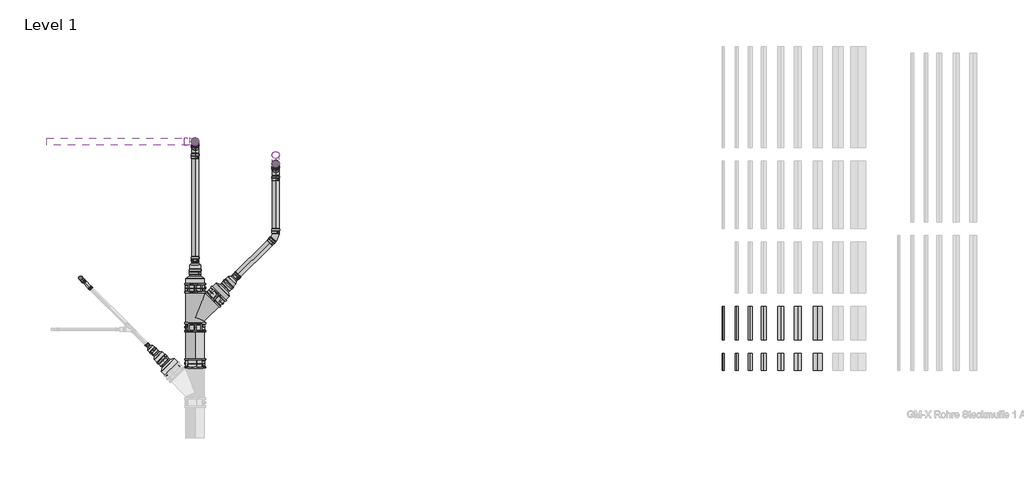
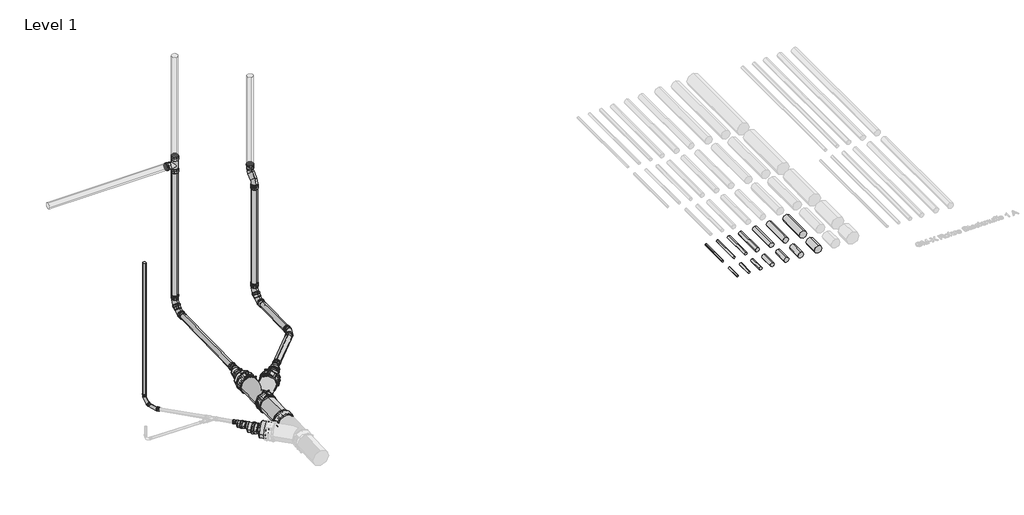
# One storey, part 3 of 7: 52 pipe fittings, 24 pipe segments, 1 valve.
"""IFC4 building model written with IfcOpenShell, lengths in millimetres."""

from ifc_helpers import new_model, si_unit, point, frame, frame_2d, origin, place, context, project, spatial, circle_curve, trimmed, segment, composite_curve, outline, extrude, transform, mapped, element, save
from components import std_512bb775, std_f0aeaa4e, std_727ca654, std_c7778bcf, std_14a86d40, std_dbb25919, std_19c47b64, std_nested_5e4445c4, std_nested_c9cabba8, std_nested_afca93a4, std_nested_2a42391e, std_nested_e5a5243e, std_nested_04e2da1f, std_nested_37ce9ab0, std_nested_de9f702d, std_nested_f38542de, std_nested_596bb4c3, std_nested_6f421a5c, std_nested_473bf3f7, std_nested_352c3d66, std_nested_72f87268, std_nested_dc9893ff, std_nested_30a605e0, std_nested_28663e90, dn100_130mm_dbbf00aa

model = new_model("IFC4")

# Units and contexts
model_context = context("Model", 3, world=origin())
ifc_project = project(units=[si_unit("LENGTHUNIT", "METRE", prefix="MILLI")], contexts=[model_context])

# Site, building, storey
site = spatial("IfcSite", under=ifc_project)
building = spatial("IfcBuilding", under=site)
storey = spatial("IfcBuildingStorey", under=building, Name="Level 1", Elevation=0.0)

# Pipe fittings
placement = place(None, origin())
std_shape = std_512bb775(model_context)
element("IfcPipeFitting", 1, ObjectType="PIF_ST_UN_GM-X multibranch_ACO : std", at=placement, inside=storey, context=model_context, shape_type="MappedRepresentation", body=[
    mapped(std_shape, transform((-7317.0023568, 3391.3677712, 2737.4997144), x_axis=(-2.983006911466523e-06, 1.4343336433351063e-07, 0.9999999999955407), y_axis=(-0.999999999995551, 0.0, -2.9830069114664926e-06), z_axis=(0.0, -0.9999999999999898, 1.434333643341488e-07))),
])
std_2_shape = std_f0aeaa4e(model_context)
element("IfcPipeFitting", 2, ObjectType="PIF_ST_UN_GM-X multireducer_ACO : std", at=placement, inside=storey, context=model_context, shape_type="MappedRepresentation", body=[
    mapped(std_2_shape, transform((-7316.8174194, 1420.9301493, 36.3139522), x_axis=(0.0, 0.9998875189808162, 0.014998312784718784), y_axis=(0.9999807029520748, -9.31752886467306e-05, 0.006211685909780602), z_axis=(0.006212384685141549, 0.014998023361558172, -0.9998682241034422))),
])
std_3_shape = std_727ca654(model_context)
element("IfcPipeFitting", 3, ObjectType="PIF_ST_UN_GM-X double bend_ACO : std", at=placement, inside=storey, context=model_context, shape_type="MappedRepresentation", body=[
    mapped(std_3_shape, transform((-6125.6297256, 3061.3647467, 96.8253188), x_axis=(0.0, 0.0, -1.0), y_axis=(0.0, -1.0, 0.0), z_axis=(-1.0, 0.0, 0.0))),
])
std_4_shape = std_c7778bcf(model_context)
element("IfcPipeFitting", 4, ObjectType="PIF_ST_UN_GM-X double bend_ACO : std", at=placement, inside=storey, context=model_context, shape_type="MappedRepresentation", body=[
    mapped(std_4_shape, transform((-7316.9944724, 3391.367392, 94.3731669), x_axis=(2.983006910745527e-06, -1.434333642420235e-07, -0.9999999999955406), y_axis=(-4.4745531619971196e-08, -0.9999999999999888, 1.434332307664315e-07), z_axis=(-0.9999999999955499, 4.4745103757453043e-08, -2.9830069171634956e-06))),
])
std_5_shape = std_14a86d40(model_context)
element("IfcPipeFitting", 5, ObjectType="PIF_ST_UN_GM-X double bend_ACO : std", at=placement, inside=storey, context=model_context, shape_type="MappedRepresentation", body=[
    mapped(std_5_shape, transform((-9014.1047863, 1368.6642449, 98.722493), x_axis=(0.0, 1.0220318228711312e-05, -0.9999999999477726), y_axis=(0.7071067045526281, -0.7071068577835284, -7.2268571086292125e-06), z_axis=(-0.7071068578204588, -0.7071067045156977, -7.226855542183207e-06))),
])
std_6_shape = std_dbb25919(model_context)
element("IfcPipeFitting", 6, ObjectType="PIF_ST_UN_GM-X multibranch_ACO : std", at=placement, inside=storey, context=model_context, shape_type="MappedRepresentation", body=[
    mapped(std_6_shape, transform((-7316.8174194, 788.0013498, 26.8200202), x_axis=(0.0, 0.9998875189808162, 0.014998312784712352), y_axis=(0.999980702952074, -9.317528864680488e-05, 0.006211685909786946), z_axis=(0.006212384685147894, 0.014998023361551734, -0.9998682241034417))),
])
std_7_shape = std_19c47b64(model_context)
element("IfcPipeFitting", 7, ObjectType="PIF_ST_UN_GM-X pipe bend_ACO : std", at=placement, inside=storey, context=model_context, shape_type="MappedRepresentation", body=[
    mapped(std_7_shape, transform((-6125.6297256, 1978.9386528, 80.5889274), x_axis=(0.7070272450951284, 0.7070272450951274, 0.014998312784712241), y_axis=(-0.7071590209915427, 0.7070272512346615, 0.0062116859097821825), z_axis=(-0.0062123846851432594, -0.01499802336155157, 0.9998682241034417))),
])
std_nested_shape = std_nested_5e4445c4(model_context)
element("IfcPipeFitting", 8, ObjectType="ZZZ_do not use_PIF_ST_UN_GM-X single branch_ACO : std (nested)", at=placement, inside=storey, context=model_context, shape_type="MappedRepresentation", body=[
    mapped(std_nested_shape, transform((-7317.0023568, 3391.3677712, 2737.4997144), x_axis=(-2.983006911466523e-06, 1.4343336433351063e-07, 0.9999999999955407), y_axis=(-0.999999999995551, 0.0, -2.9830069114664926e-06), z_axis=(0.0, -0.9999999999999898, 1.434333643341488e-07))),
])
std_nested_2_shape = std_nested_c9cabba8(model_context)
element("IfcPipeFitting", 9, ObjectType="ZZZ_do not use_PIF_ST_UN_GM-X transition element_ACO : std (nested)", at=placement, inside=storey, context=model_context, shape_type="MappedRepresentation", body=[
    mapped(std_nested_2_shape, transform((-6937.850816, 1166.9679531, 34.8591159), x_axis=(0.7070272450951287, 0.7070272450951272, 0.014998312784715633), y_axis=(0.7071590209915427, -0.7070272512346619, -0.006211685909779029), z_axis=(0.0062123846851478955, 0.014998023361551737, -0.9998682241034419))),
])
element("IfcPipeFitting", 10, ObjectType="ZZZ_do not use_PIF_ST_UN_GM-X transition element_ACO : std (nested)", at=placement, inside=storey, context=model_context, shape_type="MappedRepresentation", body=[
    mapped(std_nested_2_shape, transform((-7316.8174194, 1323.9410599, 34.8591159), x_axis=(0.0, 0.9998875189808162, 0.014998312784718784), y_axis=(0.9999807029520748, -9.31752886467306e-05, 0.006211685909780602), z_axis=(0.006212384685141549, 0.014998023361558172, -0.9998682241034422))),
])
std_nested_3_shape = std_nested_afca93a4(model_context)
element("IfcPipeFitting", 11, ObjectType="ZZZ_do not use_PIF_ST_UN_GM-X transition element_ACO : std (nested)", at=placement, inside=storey, context=model_context, shape_type="MappedRepresentation", body=[
    mapped(std_nested_3_shape, transform((-6798.5664487, 1306.2523204, 37.8137835), x_axis=(0.7070272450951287, 0.7070272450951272, 0.014998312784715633), y_axis=(0.7071590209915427, -0.7070272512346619, -0.006211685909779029), z_axis=(0.0062123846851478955, 0.014998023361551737, -0.9998682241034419))),
])
element("IfcPipeFitting", 12, ObjectType="ZZZ_do not use_PIF_ST_UN_GM-X transition element_ACO : std (nested)", at=placement, inside=storey, context=model_context, shape_type="MappedRepresentation", body=[
    mapped(std_nested_3_shape, transform((-7316.8174194, 1520.9189012, 37.8137835), x_axis=(0.0, 0.9998875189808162, 0.014998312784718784), y_axis=(0.9999807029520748, -9.31752886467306e-05, 0.006211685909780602), z_axis=(0.006212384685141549, 0.014998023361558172, -0.9998682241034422))),
])
std_nested_4_shape = std_nested_2a42391e(model_context)
element("IfcPipeFitting", 13, ObjectType="ZZZ_do not use_PIF_ST_UN_GM-X pipe bend_ACO : std (nested)", at=placement, inside=storey, context=model_context, shape_type="MappedRepresentation", body=[
    mapped(std_nested_4_shape, transform((-6125.6297256, 3061.3647467, 221.7569309), x_axis=(0.0, 0.0, -1.0), y_axis=(0.0, -1.0, 0.0), z_axis=(-1.0, 0.0, 0.0))),
])
std_nested_5_shape = std_nested_e5a5243e(model_context)
element("IfcPipeFitting", 14, ObjectType="ZZZ_do not use_PIF_ST_UN_GM-X pipe bend_ACO : std (nested)", at=placement, inside=storey, context=model_context, shape_type="MappedRepresentation", body=[
    mapped(std_nested_5_shape, transform((-6125.6297256, 2936.447187, 94.9515554), x_axis=(0.0, -0.7017840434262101, -0.7123897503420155), y_axis=(0.0, -0.7123897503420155, 0.7017840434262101), z_axis=(-1.0, 0.0, 0.0))),
])
std_nested_6_shape = std_nested_04e2da1f(model_context)
element("IfcPipeFitting", 15, ObjectType="ZZZ_do not use_PIF_ST_UN_GM-X pipe bend_ACO : std (nested)", at=placement, inside=storey, context=model_context, shape_type="MappedRepresentation", body=[
    mapped(std_nested_6_shape, transform((-7316.994845, 3391.36741, 219.3047703), x_axis=(2.983006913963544e-06, -1.4343336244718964e-07, -0.9999999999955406), y_axis=(-4.474553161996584e-08, -0.9999999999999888, 1.434332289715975e-07), z_axis=(-0.9999999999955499, 4.474510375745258e-08, -2.9830069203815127e-06))),
])
std_nested_7_shape = std_nested_37ce9ab0(model_context)
element("IfcPipeFitting", 16, ObjectType="ZZZ_do not use_PIF_ST_UN_GM-X pipe bend_ACO : std (nested)", at=placement, inside=storey, context=model_context, shape_type="MappedRepresentation", body=[
    mapped(std_nested_7_shape, transform((-7316.9944724, 3266.4498411, 92.4994037), x_axis=(2.093662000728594e-06, -0.7017840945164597, -0.7123897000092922), y_axis=(-2.125302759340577e-06, -0.7123897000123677, 0.7017840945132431), z_axis=(-0.9999999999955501, 4.4745103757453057e-08, -2.9830069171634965e-06))),
])
std_nested_8_shape = std_nested_de9f702d(model_context)
element("IfcPipeFitting", 17, ObjectType="ZZZ_do not use_PIF_ST_UN_GM-X pipe bend_ACO : std (nested)", at=placement, inside=storey, context=model_context, shape_type="MappedRepresentation", body=[
    mapped(std_nested_8_shape, transform((-9014.1047863, 1368.6629537, 225.0582808), x_axis=(0.0, 1.0220318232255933e-05, -0.9999999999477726), y_axis=(0.7071067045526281, -0.7071068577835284, -7.2268571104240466e-06), z_axis=(-0.7071068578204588, -0.7071067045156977, -7.2268555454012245e-06))),
])
std_nested_9_shape = std_nested_f38542de(model_context)
element("IfcPipeFitting", 18, ObjectType="ZZZ_do not use_PIF_ST_UN_GM-X pipe bend_ACO : std (nested)", at=placement, inside=storey, context=model_context, shape_type="MappedRepresentation", body=[
    mapped(std_nested_9_shape, transform((-8924.7819422, 1279.3414008, 96.8276693), x_axis=(0.4962380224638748, -0.4962308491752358, -0.7123922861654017), y_axis=(0.5037337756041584, -0.5037410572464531, 0.701781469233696), z_axis=(-0.7071068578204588, -0.7071067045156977, -7.226855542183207e-06))),
])
std_nested_10_shape = std_nested_596bb4c3(model_context)
element("IfcPipeFitting", 19, ObjectType="ZZZ_do not use_PIF_ST_UN_GM-X rapid clamp_ACO : std (nested)", at=placement, inside=storey, context=model_context, shape_type="MappedRepresentation", body=[
    mapped(std_nested_10_shape, transform((-7316.8174194, 640.017997, 24.60027), x_axis=(0.0, -0.9998875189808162, -0.014998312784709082), y_axis=(-0.006212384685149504, -0.014998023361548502, 0.9998682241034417), z_axis=(-0.999980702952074, 9.317528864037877e-05, -0.006211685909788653))),
])
element("IfcPipeFitting", 20, ObjectType="ZZZ_do not use_PIF_ST_UN_GM-X rapid clamp_ACO : std (nested)", at=placement, inside=storey, context=model_context, shape_type="MappedRepresentation", body=[
    mapped(std_nested_10_shape, transform((-7316.8174194, 1220.9526455, 33.3142897), x_axis=(0.0, 0.9998875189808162, 0.014998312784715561), y_axis=(-0.006212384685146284, -0.014998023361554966, 0.9998682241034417), z_axis=(0.999980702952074, -9.317528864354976e-05, 0.006211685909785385))),
])
element("IfcPipeFitting", 21, ObjectType="ZZZ_do not use_PIF_ST_UN_GM-X rapid clamp_ACO : std (nested)", at=placement, inside=storey, context=model_context, shape_type="MappedRepresentation", body=[
    mapped(std_nested_10_shape, transform((-7010.6746223, 1094.1441469, 33.3142897), x_axis=(0.7070272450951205, 0.7070272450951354, 0.014998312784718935), y_axis=(-0.00621238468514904, -0.014998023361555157, 0.9998682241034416), z_axis=(0.7071590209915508, -0.7070272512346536, -0.006211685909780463))),
])
element("IfcPipeFitting", 22, ObjectType="ZZZ_do not use_PIF_ST_UN_GM-X rapid clamp_ACO : std (nested)", at=placement, inside=storey, context=model_context, shape_type="MappedRepresentation", body=[
    mapped(std_nested_10_shape, transform((-7316.8174194, 104.7894226, 16.5718413), x_axis=(0.0, 0.9998875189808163, 0.014998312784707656), y_axis=(-0.006212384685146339, 0.014998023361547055, -0.9998682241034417), z_axis=(-0.9999807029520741, -9.31752886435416e-05, 0.006211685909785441))),
])
std_nested_11_shape = std_nested_6f421a5c(model_context)
element("IfcPipeFitting", 23, ObjectType="ZZZ_do not use_PIF_ST_UN_GM-X universal claw_ACO : std (nested)", at=placement, inside=storey, context=model_context, shape_type="MappedRepresentation", body=[
    mapped(std_nested_11_shape, transform((-7316.8174194, 640.017997, 24.60027), x_axis=(0.0, -0.9998875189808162, -0.014998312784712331), y_axis=(0.999980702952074, -9.317528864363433e-05, 0.006211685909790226), z_axis=(-0.006212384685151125, -0.014998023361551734, 0.9998682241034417))),
])
element("IfcPipeFitting", 24, ObjectType="ZZZ_do not use_PIF_ST_UN_GM-X universal claw_ACO : std (nested)", at=placement, inside=storey, context=model_context, shape_type="MappedRepresentation", body=[
    mapped(std_nested_11_shape, transform((-7316.8174194, 1220.9526455, 33.3142897), x_axis=(0.0, 0.9998875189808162, 0.014998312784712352), y_axis=(-0.999980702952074, 9.31752886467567e-05, -0.006211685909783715), z_axis=(-0.006212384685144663, -0.014998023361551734, 0.9998682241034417))),
])
element("IfcPipeFitting", 25, ObjectType="ZZZ_do not use_PIF_ST_UN_GM-X universal claw_ACO : std (nested)", at=placement, inside=storey, context=model_context, shape_type="MappedRepresentation", body=[
    mapped(std_nested_11_shape, transform((-7010.6746223, 1094.1441469, 33.3142897), x_axis=(0.7070272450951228, 0.707027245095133, 0.014998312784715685), y_axis=(-0.7071590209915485, 0.7070272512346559, 0.006211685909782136), z_axis=(-0.006212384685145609, -0.014998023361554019, 0.9998682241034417))),
])
element("IfcPipeFitting", 26, ObjectType="ZZZ_do not use_PIF_ST_UN_GM-X universal claw_ACO : std (nested)", at=placement, inside=storey, context=model_context, shape_type="MappedRepresentation", body=[
    mapped(std_nested_11_shape, transform((-7316.8174194, 104.7894226, 16.5718413), x_axis=(0.0, 0.9998875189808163, 0.014998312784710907), y_axis=(0.9999807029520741, 9.317528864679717e-05, -0.006211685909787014), z_axis=(-0.00621238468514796, 0.014998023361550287, -0.9998682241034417))),
])
std_nested_12_shape = std_nested_473bf3f7(model_context)
element("IfcPipeFitting", 27, ObjectType="ZZZ_do not use_PIF_ST_UN_GM-X seal non transitional_ACO : std (nested)", at=placement, inside=storey, context=model_context, shape_type="MappedRepresentation", body=[
    mapped(std_nested_12_shape, transform((-6125.6297256, 3191.3647467, 2446.5163684), x_axis=(0.0, 0.0, 1.0), y_axis=(0.0, 1.0, 0.0), z_axis=(-1.0, 0.0, 0.0))),
])
element("IfcPipeFitting", 28, ObjectType="ZZZ_do not use_PIF_ST_UN_GM-X seal non transitional_ACO : std (nested)", at=placement, inside=storey, context=model_context, shape_type="MappedRepresentation", body=[
    mapped(std_nested_12_shape, transform((-6125.6297256, 3061.3647467, 345.7569309), x_axis=(0.0, 0.0, 1.0), y_axis=(0.0, 1.0, 0.0), z_axis=(-1.0, 0.0, 0.0))),
])
element("IfcPipeFitting", 29, ObjectType="ZZZ_do not use_PIF_ST_UN_GM-X seal non transitional_ACO : std (nested)", at=placement, inside=storey, context=model_context, shape_type="MappedRepresentation", body=[
    mapped(std_nested_12_shape, transform((-6125.6297256, 3023.4684084, 183.2878844), x_axis=(0.0, 0.7017840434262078, 0.7123897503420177), y_axis=(0.0, 0.7123897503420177, -0.7017840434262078), z_axis=(-1.0, 0.0, 0.0))),
])
element("IfcPipeFitting", 30, ObjectType="ZZZ_do not use_PIF_ST_UN_GM-X seal non transitional_ACO : std (nested)", at=placement, inside=storey, context=model_context, shape_type="MappedRepresentation", body=[
    mapped(std_nested_12_shape, transform((-7316.9952149, 3391.3674277, 343.3047703), x_axis=(-2.983006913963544e-06, 1.4343335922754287e-07, 0.9999999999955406), y_axis=(4.474553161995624e-08, 0.9999999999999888, -1.4343322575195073e-07), z_axis=(-0.9999999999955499, 4.474510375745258e-08, -2.9830069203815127e-06))),
])
element("IfcPipeFitting", 31, ObjectType="ZZZ_do not use_PIF_ST_UN_GM-X seal non transitional_ACO : std (nested)", at=placement, inside=storey, context=model_context, shape_type="MappedRepresentation", body=[
    mapped(std_nested_12_shape, transform((-7316.994732, 3353.4710689, 180.8357265), x_axis=(-2.093662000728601e-06, 0.7017840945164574, 0.7123897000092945), y_axis=(2.12530275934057e-06, 0.7123897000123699, -0.7017840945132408), z_axis=(-0.9999999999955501, 4.4745103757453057e-08, -2.9830069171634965e-06))),
])
element("IfcPipeFitting", 32, ObjectType="ZZZ_do not use_PIF_ST_UN_GM-X seal non transitional_ACO : std (nested)", at=placement, inside=storey, context=model_context, shape_type="MappedRepresentation", body=[
    mapped(std_nested_12_shape, transform((-6680.6699518, 1423.8984267, 68.8147461), x_axis=(0.7070272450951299, 0.7070272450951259, 0.014998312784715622), y_axis=(0.7071590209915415, -0.7070272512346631, -0.00621168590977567), z_axis=(0.0062123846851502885, 0.014998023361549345, -0.9998682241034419))),
])
element("IfcPipeFitting", 33, ObjectType="ZZZ_do not use_PIF_ST_UN_GM-X seal non transitional_ACO : std (nested)", at=placement, inside=storey, context=model_context, shape_type="MappedRepresentation", body=[
    mapped(std_nested_12_shape, transform((-7952.964887, 307.7352038, 52.0722978), x_axis=(-0.7070272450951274, 0.7070272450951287, 0.014998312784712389), y_axis=(-0.7071590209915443, -0.7070272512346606, -0.006211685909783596), z_axis=(0.0062123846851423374, -0.014998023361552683, 0.9998682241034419))),
])
element("IfcPipeFitting", 34, ObjectType="ZZZ_do not use_PIF_ST_UN_GM-X seal non transitional_ACO : std (nested)", at=placement, inside=storey, context=model_context, shape_type="MappedRepresentation", body=[
    mapped(std_nested_12_shape, transform((-7477.0023568, 3391.3677712, 2737.4997144), x_axis=(-1.0000000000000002, 0.0, 0.0), y_axis=(0.0, -1.4343336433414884e-07, -0.9999999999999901), z_axis=(0.0, -0.99999999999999, 1.4343336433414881e-07))),
])
element("IfcPipeFitting", 35, ObjectType="ZZZ_do not use_PIF_ST_UN_GM-X seal non transitional_ACO : std (nested)", at=placement, inside=storey, context=model_context, shape_type="MappedRepresentation", body=[
    mapped(std_nested_12_shape, transform((-7317.0028341, 3391.3677941, 2897.4997144), x_axis=(-2.983006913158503e-06, 1.4343336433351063e-07, 0.9999999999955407), y_axis=(-0.999999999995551, 0.0, -2.9830069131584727e-06), z_axis=(0.0, -0.9999999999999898, 1.434333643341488e-07))),
])
element("IfcPipeFitting", 36, ObjectType="ZZZ_do not use_PIF_ST_UN_GM-X seal non transitional_ACO : std (nested)", at=placement, inside=storey, context=model_context, shape_type="MappedRepresentation", body=[
    mapped(std_nested_12_shape, transform((-7316.9944724, 1687.4726732, 68.8147461), x_axis=(0.0, 0.9998875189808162, 0.014998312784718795), y_axis=(0.9999807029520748, -9.317528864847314e-05, 0.006211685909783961), z_axis=(0.006212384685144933, 0.014998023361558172, -0.9998682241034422))),
])
element("IfcPipeFitting", 37, ObjectType="ZZZ_do not use_PIF_ST_UN_GM-X seal non transitional_ACO : std (nested)", at=placement, inside=storey, context=model_context, shape_type="MappedRepresentation", body=[
    mapped(std_nested_12_shape, transform((-6125.6297256, 2102.9247052, 82.4487182), x_axis=(0.0, 0.9998875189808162, 0.014998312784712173), y_axis=(-0.999980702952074, 9.317528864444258e-05, -0.006211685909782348), z_axis=(-0.0062123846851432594, -0.01499802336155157, 0.9998682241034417))),
])
element("IfcPipeFitting", 38, ObjectType="ZZZ_do not use_PIF_ST_UN_GM-X seal non transitional_ACO : std (nested)", at=placement, inside=storey, context=model_context, shape_type="MappedRepresentation", body=[
    mapped(std_nested_12_shape, transform((-6163.8091969, 1940.7591816, 79.7790185), x_axis=(0.7070272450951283, 0.7070272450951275, 0.014998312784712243), y_axis=(-0.7071590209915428, 0.7070272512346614, 0.006211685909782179), z_axis=(-0.0062123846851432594, -0.01499802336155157, 0.9998682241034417))),
])
element("IfcPipeFitting", 39, ObjectType="ZZZ_do not use_PIF_ST_UN_GM-X seal non transitional_ACO : std (nested)", at=placement, inside=storey, context=model_context, shape_type="MappedRepresentation", body=[
    mapped(std_nested_12_shape, transform((-6125.6297256, 3061.3647467, 2146.5163684), x_axis=(0.0, 0.0, 1.0), y_axis=(0.0, 1.0, 0.0), z_axis=(-1.0, 0.0, 0.0))),
])
element("IfcPipeFitting", 40, ObjectType="ZZZ_do not use_PIF_ST_UN_GM-X seal non transitional_ACO : std (nested)", at=placement, inside=storey, context=model_context, shape_type="MappedRepresentation", body=[
    mapped(std_nested_12_shape, transform((-6125.6297256, 2882.453261, 94.1416465), x_axis=(0.0, 0.9998875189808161, 0.01499831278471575), y_axis=(0.0, 0.01499831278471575, -0.9998875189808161), z_axis=(-1.0, 0.0, 0.0))),
])
element("IfcPipeFitting", 41, ObjectType="ZZZ_do not use_PIF_ST_UN_GM-X seal non transitional_ACO : std (nested)", at=placement, inside=storey, context=model_context, shape_type="MappedRepresentation", body=[
    mapped(std_nested_12_shape, transform((-7316.9944724, 3212.4559151, 91.6894948), x_axis=(0.0, 0.9998875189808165, 0.014998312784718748), y_axis=(2.98334248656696e-06, 0.014998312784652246, -0.9998875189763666), z_axis=(-0.9999999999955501, 4.4745103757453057e-08, -2.9830069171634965e-06))),
])
element("IfcPipeFitting", 42, ObjectType="ZZZ_do not use_PIF_ST_UN_GM-X seal non transitional_ACO : std (nested)", at=placement, inside=storey, context=model_context, shape_type="MappedRepresentation", body=[
    mapped(std_nested_12_shape, transform((-7317.002148, 3391.3677611, 2667.4997144), x_axis=(-2.983006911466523e-06, 1.4343336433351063e-07, 0.9999999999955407), y_axis=(0.999999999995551, 0.0, 2.9830069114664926e-06), z_axis=(0.0, 0.9999999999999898, -1.434333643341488e-07))),
])
std_nested_13_shape = std_nested_352c3d66(model_context)
element("IfcPipeFitting", 43, ObjectType="ZZZ_do not use_PIF_ST_UN_GM-X seal non transitional_ACO : std (nested)", at=placement, inside=storey, context=model_context, shape_type="MappedRepresentation", body=[
    mapped(std_nested_13_shape, transform((-9014.1047863, 1368.6617885, 339.0582808), x_axis=(0.0, -1.0220318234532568e-05, 0.9999999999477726), y_axis=(-0.7071067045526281, 0.7071068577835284, 7.226857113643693e-06), z_axis=(-0.7071068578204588, -0.7071067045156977, -7.2268555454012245e-06))),
])
element("IfcPipeFitting", 44, ObjectType="ZZZ_do not use_PIF_ST_UN_GM-X seal non transitional_ACO : std (nested)", at=placement, inside=storey, context=model_context, shape_type="MappedRepresentation", body=[
    mapped(std_nested_13_shape, transform((-8981.3530768, 1335.9117176, 178.0403899), x_axis=(-0.49623802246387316, 0.4962308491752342, 0.712392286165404), y_axis=(-0.50373377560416, 0.5037410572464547, -0.7017814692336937), z_axis=(-0.7071068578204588, -0.7071067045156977, -7.226855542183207e-06))),
])
element("IfcPipeFitting", 45, ObjectType="ZZZ_do not use_PIF_ST_UN_GM-X seal non transitional_ACO : std (nested)", at=placement, inside=storey, context=model_context, shape_type="MappedRepresentation", body=[
    mapped(std_nested_13_shape, transform((-8878.1181441, 1232.6776026, 95.8377807), x_axis=(-0.7070272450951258, 0.70702724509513, 0.014998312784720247), y_axis=(-0.010600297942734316, 0.010610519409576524, -0.9998875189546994), z_axis=(-0.7071068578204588, -0.7071067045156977, -7.226855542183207e-06))),
])
std_nested_14_shape = std_nested_72f87268(model_context)
element("IfcPipeFitting", 46, ObjectType="ZZZ_do not use_PIF_ST_UN_GM-X seal non transitional_ACO : std (nested)", at=placement, inside=storey, context=model_context, shape_type="MappedRepresentation", body=[
    mapped(std_nested_14_shape, transform((-6810.5859119, 1294.2328573, 37.5588122), x_axis=(0.7070272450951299, 0.7070272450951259, 0.014998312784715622), y_axis=(0.7071590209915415, -0.7070272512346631, -0.006211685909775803), z_axis=(0.006212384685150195, 0.014998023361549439, -0.9998682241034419))),
])
element("IfcPipeFitting", 47, ObjectType="ZZZ_do not use_PIF_ST_UN_GM-X seal non transitional_ACO : std (nested)", at=placement, inside=storey, context=model_context, shape_type="MappedRepresentation", body=[
    mapped(std_nested_14_shape, transform((-7823.0489269, 178.0696344, 20.8163639), x_axis=(-0.7070272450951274, 0.7070272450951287, 0.014998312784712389), y_axis=(-0.7071590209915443, -0.7070272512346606, -0.006211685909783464), z_axis=(0.006212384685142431, -0.01499802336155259, 0.9998682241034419))),
])
element("IfcPipeFitting", 48, ObjectType="ZZZ_do not use_PIF_ST_UN_GM-X seal non transitional_ACO : std (nested)", at=placement, inside=storey, context=model_context, shape_type="MappedRepresentation", body=[
    mapped(std_nested_14_shape, transform((-7316.8174194, 1503.9208134, 37.5588122), x_axis=(0.0, 0.9998875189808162, 0.014998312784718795), y_axis=(0.9999807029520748, -9.317528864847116e-05, 0.006211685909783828), z_axis=(0.006212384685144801, 0.014998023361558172, -0.9998682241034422))),
])
std_nested_15_shape = std_nested_dc9893ff(model_context)
element("IfcPipeFitting", 49, ObjectType="ZZZ_do not use_PIF_ST_UN_GM-X single branch socket free_ACO : std (nested)", at=placement, inside=storey, context=model_context, shape_type="MappedRepresentation", body=[
    mapped(std_nested_15_shape, transform((-7316.8174194, 788.0013498, 26.8200202), x_axis=(0.0, 0.9998875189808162, 0.014998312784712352), y_axis=(0.999980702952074, -9.317528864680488e-05, 0.006211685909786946), z_axis=(0.006212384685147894, 0.014998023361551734, -0.9998682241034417))),
])
element("IfcPipeFitting", 50, ObjectType="ZZZ_do not use_PIF_ST_UN_GM-X transition element_ACO : std (nested)", at=placement, inside=storey, context=model_context, shape_type="MappedRepresentation", body=[
    mapped(std_nested_2_shape, transform((-7695.7840228, 50.8047302, 18.1166676), x_axis=(-0.7070272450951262, 0.7070272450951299, 0.014998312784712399), y_axis=(-0.7071590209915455, -0.7070272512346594, -0.006211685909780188), z_axis=(0.0062123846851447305, -0.01499802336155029, 0.9998682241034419))),
])
std_nested_16_shape = std_nested_30a605e0(model_context)
element("IfcPipeFitting", 51, ObjectType="ZZZ_do not use_PIF_ST_UN_GM-X transition element_ACO : std (nested)", at=placement, inside=storey, context=model_context, shape_type="MappedRepresentation", body=[
    mapped(std_nested_16_shape, transform((-7835.0683901, 190.0890975, 21.0713352), x_axis=(-0.7070272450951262, 0.7070272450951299, 0.014998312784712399), y_axis=(-0.7071590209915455, -0.7070272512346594, -0.006211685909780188), z_axis=(0.0062123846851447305, -0.01499802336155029, 0.9998682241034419))),
])
std_nested_17_shape = std_nested_28663e90(model_context)
element("IfcPipeFitting", 52, ObjectType="ZZZ_do not use_PIF_ST_UN_GM-X transition element_ACO : std (nested)", at=placement, inside=storey, context=model_context, shape_type="MappedRepresentation", body=[
    mapped(std_nested_17_shape, transform((-7958.9746186, 313.7449354, 52.1997835), x_axis=(-0.7070272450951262, 0.7070272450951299, 0.014998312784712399), y_axis=(-0.7071590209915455, -0.7070272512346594, -0.006211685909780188), z_axis=(0.0062123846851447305, -0.01499802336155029, 0.9998682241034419))),
])

# Pipe segments
element("IfcPipeSegment", 53, ObjectType="GM-X pipe complex", at=placement, inside=storey, context=model_context, shape_type="SweptSolid", body=[
    extrude(outline(composite_curve([segment(trimmed(circle_curve(frame_2d((-6125.6297256, 3191.3647467)), 51.5), [point((-6177.1297256, 3191.3647467))], [point((-6125.6297256, 3242.8647467))], False, "CARTESIAN"), True, "CONTINUOUS"), segment(trimmed(circle_curve(frame_2d((-6125.6297256, 3191.3647467)), 51.5), [point((-6125.6297256, 3242.8647467))], [point((-6074.1297256, 3191.3647467))], False, "CARTESIAN"), True, "CONTINUOUS"), segment(trimmed(circle_curve(frame_2d((-6125.6297256, 3191.3647467)), 51.5), [point((-6074.1297256, 3191.3647467))], [point((-6125.6297256, 3139.8647467))], False, "CARTESIAN"), True, "CONTINUOUS"), segment(trimmed(circle_curve(frame_2d((-6125.6297256, 3191.3647467)), 51.5), [point((-6125.6297256, 3139.8647467))], [point((-6177.1297256, 3191.3647467))], False, "CARTESIAN"), True, "CONTINUOUS")], self_intersect=False)), frame((0.0, 0.0, 2376.5163684), z_axis=(0.0, 0.0, 1.0), x_axis=(1.0, 0.0, 0.0)), (0.0, 0.0, 1.0), 1682.2589504),
])
element("IfcPipeSegment", 54, ObjectType="GM-X pipe complex", at=placement, inside=storey, context=model_context, shape_type="SweptSolid", body=[
    extrude(outline(composite_curve([segment(trimmed(circle_curve(frame_2d((0.0, -51.5000001)), 51.5), [point((-51.5, -51.5000001))], [point((0.0, 0.0))], False, "CARTESIAN"), True, "CONTINUOUS"), segment(trimmed(circle_curve(frame_2d((0.0, -51.5000001)), 51.5), [point((0.0, 0.0))], [point((51.5, -51.5000001))], False, "CARTESIAN"), True, "CONTINUOUS"), segment(trimmed(circle_curve(frame_2d((0.0, -51.5000001)), 51.5), [point((51.5, -51.5000001))], [point((0.0, -103.0))], False, "CARTESIAN"), True, "CONTINUOUS"), segment(trimmed(circle_curve(frame_2d((0.0, -51.5000001)), 51.5), [point((0.0, -103.0))], [point((-51.5, -51.5000001))], False, "CARTESIAN"), True, "CONTINUOUS")], self_intersect=False)), frame((-6125.6297256, 2033.704992, 29.904629), z_axis=(0.0, 0.9998875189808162, 0.014998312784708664), x_axis=(1.0, 0.0, 0.0)), (0.0, 0.0, 1.0), 779.6162478),
])
element("IfcPipeSegment", 55, ObjectType="GM-X pipe complex", at=placement, inside=storey, context=model_context, shape_type="SweptSolid", body=[
    extrude(outline(composite_curve([segment(trimmed(circle_curve(frame_2d((0.0, -51.5)), 51.5), [point((-51.4942086, -50.7276737))], [point((0.7723262, -0.0057915))], False, "CARTESIAN"), True, "CONTINUOUS"), segment(trimmed(circle_curve(frame_2d((0.0, -51.5)), 51.5), [point((0.7723262, -0.0057915))], [point((51.4942085, -52.2723262))], False, "CARTESIAN"), True, "CONTINUOUS"), segment(trimmed(circle_curve(frame_2d((0.0, -51.5)), 51.5), [point((51.4942085, -52.2723262))], [point((-0.7723263, -102.9942086))], False, "CARTESIAN"), True, "CONTINUOUS"), segment(trimmed(circle_curve(frame_2d((0.0, -51.5)), 51.5), [point((-0.7723263, -102.9942086))], [point((-51.4942086, -50.7276737))], False, "CARTESIAN"), True, "CONTINUOUS")], self_intersect=False)), frame((-6730.1618589, 1375.4987538, 16.2764478), z_axis=(0.707027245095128, 0.7070272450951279, 0.01499831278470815), x_axis=(0.7071863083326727, -0.7068682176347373, -0.014994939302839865)), (0.0, 0.0, 1.0), 731.0337169),
])
element("IfcPipeSegment", 56, ObjectType="GM-X pipe complex", at=placement, inside=storey, context=model_context, shape_type="SweptSolid", body=[
    extrude(outline(composite_curve([segment(trimmed(circle_curve(frame_2d((0.0, -51.5)), 51.5), [point((-51.5, -51.5))], [point((0.0, 0.0))], False, "CARTESIAN"), True, "CONTINUOUS"), segment(trimmed(circle_curve(frame_2d((0.0, -51.5)), 51.5), [point((0.0, 0.0))], [point((51.5, -51.5))], False, "CARTESIAN"), True, "CONTINUOUS"), segment(trimmed(circle_curve(frame_2d((0.0, -51.5)), 51.5), [point((51.5, -51.5))], [point((0.0, -103.0))], False, "CARTESIAN"), True, "CONTINUOUS"), segment(trimmed(circle_curve(frame_2d((0.0, -51.5)), 51.5), [point((0.0, -103.0))], [point((-51.5, -51.5))], False, "CARTESIAN"), True, "CONTINUOUS")], self_intersect=False)), frame((-7316.9944724, 1618.25296, 16.270657), z_axis=(0.0, 0.999887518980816, 0.014998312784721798), x_axis=(1.0, 0.0, 0.0)), (0.0, 0.0, 1.0), 1525.1547929),
])
element("IfcPipeSegment", 57, ObjectType="GM-X pipe complex", at=placement, inside=storey, context=model_context, shape_type="SweptSolid", body=[
    extrude(outline(composite_curve([segment(trimmed(circle_curve(frame_2d((0.0, -26.5)), 26.5), [point((-26.5, -26.5))], [point((0.0, 0.0))], False, "CARTESIAN"), True, "CONTINUOUS"), segment(trimmed(circle_curve(frame_2d((0.0, -26.5)), 26.5), [point((0.0, 0.0))], [point((26.5, -26.5))], False, "CARTESIAN"), True, "CONTINUOUS"), segment(trimmed(circle_curve(frame_2d((0.0, -26.5)), 26.5), [point((26.5, -26.5))], [point((0.0, -53.0))], False, "CARTESIAN"), True, "CONTINUOUS"), segment(trimmed(circle_curve(frame_2d((0.0, -26.5)), 26.5), [point((0.0, -53.0))], [point((-26.5, -26.5))], False, "CARTESIAN"), True, "CONTINUOUS")], self_intersect=False)), frame((-9014.1047862, 1342.1621769, 301.0582958), z_axis=(0.0, 5.648917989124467e-07, 0.9999999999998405), x_axis=(-1.0, 0.0, 0.0)), (0.0, 0.0, 1.0), 2442.1417168),
])
element("IfcPipeSegment", 58, ObjectType="GM-X pipe complex", at=placement, inside=storey, context=model_context, shape_type="SweptSolid", body=[
    extrude(outline(composite_curve([segment(trimmed(circle_curve(frame_2d((0.0, -136.5000001)), 136.5), [point((-136.5, -136.5000001))], [point((0.0, 0.0))], False, "CARTESIAN"), True, "CONTINUOUS"), segment(trimmed(circle_curve(frame_2d((0.0, -136.5000001)), 136.5), [point((0.0, 0.0))], [point((136.5, -136.5000001))], False, "CARTESIAN"), True, "CONTINUOUS"), segment(trimmed(circle_curve(frame_2d((0.0, -136.5000001)), 136.5), [point((136.5, -136.5000001))], [point((0.0, -273.0))], False, "CARTESIAN"), True, "CONTINUOUS"), segment(trimmed(circle_curve(frame_2d((0.0, -136.5000001)), 136.5), [point((0.0, -273.0))], [point((-136.5, -136.5000001))], False, "CARTESIAN"), True, "CONTINUOUS")], self_intersect=False)), frame((-7316.8174194, 109.8363548, -119.8678101), z_axis=(0.0, 0.9998875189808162, 0.014998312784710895), x_axis=(1.0, 0.0, 0.0)), (0.0, 0.0, 1.0), 529.2887842),
])
element("IfcPipeSegment", 59, ObjectType="GM-X pipe complex", at=placement, inside=storey, context=model_context, shape_type="SweptSolid", body=[
    extrude(outline(composite_curve([segment(trimmed(circle_curve(frame_2d((3391.3677712, 2737.4997144)), 51.5), [point((3442.8677712, 2737.4997144))], [point((3391.3677712, 2685.9997144))], False, "CARTESIAN"), True, "CONTINUOUS"), segment(trimmed(circle_curve(frame_2d((3391.3677712, 2737.4997144)), 51.5), [point((3391.3677712, 2685.9997144))], [point((3339.8677712, 2737.4997144))], False, "CARTESIAN"), True, "CONTINUOUS"), segment(trimmed(circle_curve(frame_2d((3391.3677712, 2737.4997144)), 51.5), [point((3339.8677712, 2737.4997144))], [point((3391.3677712, 2788.9997144))], False, "CARTESIAN"), True, "CONTINUOUS"), segment(trimmed(circle_curve(frame_2d((3391.3677712, 2737.4997144)), 51.5), [point((3391.3677712, 2788.9997144))], [point((3442.8677712, 2737.4997144))], False, "CARTESIAN"), True, "CONTINUOUS")], self_intersect=False)), frame((-9517.0023564, 0.0, 0.0), z_axis=(1.0, 0.0, 0.0), x_axis=(0.0, 1.0, 0.0)), (0.0, 0.0, 1.0), 2109.9999996),
])
element("IfcPipeSegment", 60, ObjectType="GM-X pipe complex", at=placement, inside=storey, context=model_context, shape_type="SweptSolid", body=[
    extrude(outline(composite_curve([segment(trimmed(circle_curve(frame_2d((0.0, 51.5)), 51.5), [point((-51.5, 51.5))], [point((0.0, 103.0))], False, "CARTESIAN"), True, "CONTINUOUS"), segment(trimmed(circle_curve(frame_2d((0.0, 51.5)), 51.5), [point((0.0, 103.0))], [point((51.5, 51.5))], False, "CARTESIAN"), True, "CONTINUOUS"), segment(trimmed(circle_curve(frame_2d((0.0, 51.5)), 51.5), [point((51.5, 51.5))], [point((0.0, 0.0))], False, "CARTESIAN"), True, "CONTINUOUS"), segment(trimmed(circle_curve(frame_2d((0.0, 51.5)), 51.5), [point((0.0, 0.0))], [point((-51.5, 51.5))], False, "CARTESIAN"), True, "CONTINUOUS")], self_intersect=False)), frame((-7317.0026253, 3339.8677841, 2827.4997218), z_axis=(-2.9830069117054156e-06, 1.4343336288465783e-07, 0.9999999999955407), x_axis=(0.9999999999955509, 0.0, 2.9830069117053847e-06)), (0.0, 0.0, 1.0), 1897.1284431),
])
element("IfcPipeSegment", 61, ObjectType="GM-X pipe complex", at=placement, inside=storey, context=model_context, shape_type="SweptSolid", body=[
    extrude(outline(composite_curve([segment(trimmed(circle_curve(frame_2d((0.0, 51.5)), 51.5), [point((-51.5, 51.5))], [point((0.0, 103.0))], False, "CARTESIAN"), True, "CONTINUOUS"), segment(trimmed(circle_curve(frame_2d((0.0, 51.5)), 51.5), [point((0.0, 103.0))], [point((51.5, 51.5))], False, "CARTESIAN"), True, "CONTINUOUS"), segment(trimmed(circle_curve(frame_2d((0.0, 51.5)), 51.5), [point((51.5, 51.5))], [point((0.0, 0.0))], False, "CARTESIAN"), True, "CONTINUOUS"), segment(trimmed(circle_curve(frame_2d((0.0, 51.5)), 51.5), [point((0.0, 0.0))], [point((-51.5, 51.5))], False, "CARTESIAN"), True, "CONTINUOUS")], self_intersect=False)), frame((-7316.9950061, 3339.8674177, 273.3047776), z_axis=(-2.983006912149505e-06, 1.4343336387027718e-07, 0.9999999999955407), x_axis=(0.9999999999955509, 0.0, 2.983006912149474e-06)), (0.0, 0.0, 1.0), 2324.1949441),
])
element("IfcPipeSegment", 62, ObjectType="GM-X pipe complex", at=placement, inside=storey, context=model_context, shape_type="SweptSolid", body=[
    extrude(outline(composite_curve([segment(trimmed(circle_curve(frame_2d((0.0, 500.0)), 16.0), [point((0.0, 516.0))], [point((16.0, 500.0))], False, "CARTESIAN"), True, "CONTINUOUS"), segment(trimmed(circle_curve(frame_2d((0.0, 500.0)), 16.0), [point((16.0, 500.0))], [point((0.0, 484.0))], False, "CARTESIAN"), True, "CONTINUOUS"), segment(trimmed(circle_curve(frame_2d((0.0, 500.0)), 16.0), [point((0.0, 484.0))], [point((-16.0, 500.0))], False, "CARTESIAN"), True, "CONTINUOUS"), segment(trimmed(circle_curve(frame_2d((0.0, 500.0)), 16.0), [point((-16.0, 500.0))], [point((0.0, 516.0))], False, "CARTESIAN"), True, "CONTINUOUS")], self_intersect=False)), frame((0.0, 0.0, 0.0), z_axis=(0.0, 1.0, 0.0), x_axis=(0.0, 0.0, 1.0)), (0.0, 0.0, 1.0), 250.0),
])
element("IfcPipeSegment", 63, ObjectType="GM-X pipe complex", at=placement, inside=storey, context=model_context, shape_type="SweptSolid", body=[
    extrude(outline(composite_curve([segment(trimmed(circle_curve(frame_2d((0.0, 700.0)), 21.5), [point((0.0, 721.5))], [point((21.5, 700.0))], False, "CARTESIAN"), True, "CONTINUOUS"), segment(trimmed(circle_curve(frame_2d((0.0, 700.0)), 21.5), [point((21.5, 700.0))], [point((0.0, 678.5))], False, "CARTESIAN"), True, "CONTINUOUS"), segment(trimmed(circle_curve(frame_2d((0.0, 700.0)), 21.5), [point((0.0, 678.5))], [point((-21.5, 700.0))], False, "CARTESIAN"), True, "CONTINUOUS"), segment(trimmed(circle_curve(frame_2d((0.0, 700.0)), 21.5), [point((-21.5, 700.0))], [point((0.0, 721.5))], False, "CARTESIAN"), True, "CONTINUOUS")], self_intersect=False)), frame((0.0, 0.0, 0.0), z_axis=(0.0, 1.0, 0.0), x_axis=(0.0, 0.0, 1.0)), (0.0, 0.0, 1.0), 250.0),
])
element("IfcPipeSegment", 64, ObjectType="GM-X pipe complex", at=placement, inside=storey, context=model_context, shape_type="SweptSolid", body=[
    extrude(outline(composite_curve([segment(trimmed(circle_curve(frame_2d((0.0, 900.0)), 26.5), [point((0.0, 926.5))], [point((26.5, 900.0))], False, "CARTESIAN"), True, "CONTINUOUS"), segment(trimmed(circle_curve(frame_2d((0.0, 900.0)), 26.5), [point((26.5, 900.0))], [point((0.0, 873.5))], False, "CARTESIAN"), True, "CONTINUOUS"), segment(trimmed(circle_curve(frame_2d((0.0, 900.0)), 26.5), [point((0.0, 873.5))], [point((-26.5, 900.0))], False, "CARTESIAN"), True, "CONTINUOUS"), segment(trimmed(circle_curve(frame_2d((0.0, 900.0)), 26.5), [point((-26.5, 900.0))], [point((0.0, 926.5))], False, "CARTESIAN"), True, "CONTINUOUS")], self_intersect=False)), frame((0.0, 0.0, 0.0), z_axis=(0.0, 1.0, 0.0), x_axis=(0.0, 0.0, 1.0)), (0.0, 0.0, 1.0), 250.0),
])
element("IfcPipeSegment", 65, ObjectType="GM-X pipe complex", at=placement, inside=storey, context=model_context, shape_type="SweptSolid", body=[
    extrude(outline(composite_curve([segment(trimmed(circle_curve(frame_2d((0.0, 1100.0)), 36.5), [point((0.0, 1136.5))], [point((36.5, 1100.0))], False, "CARTESIAN"), True, "CONTINUOUS"), segment(trimmed(circle_curve(frame_2d((0.0, 1100.0)), 36.5), [point((36.5, 1100.0))], [point((0.0, 1063.5))], False, "CARTESIAN"), True, "CONTINUOUS"), segment(trimmed(circle_curve(frame_2d((0.0, 1100.0)), 36.5), [point((0.0, 1063.5))], [point((-36.5, 1100.0))], False, "CARTESIAN"), True, "CONTINUOUS"), segment(trimmed(circle_curve(frame_2d((0.0, 1100.0)), 36.5), [point((-36.5, 1100.0))], [point((0.0, 1136.5))], False, "CARTESIAN"), True, "CONTINUOUS")], self_intersect=False)), frame((0.0, 0.0, 0.0), z_axis=(0.0, 1.0, 0.0), x_axis=(0.0, 0.0, 1.0)), (0.0, 0.0, 1.0), 250.0),
])
element("IfcPipeSegment", 66, ObjectType="GM-X pipe complex", at=placement, inside=storey, context=model_context, shape_type="SweptSolid", body=[
    extrude(outline(composite_curve([segment(trimmed(circle_curve(frame_2d((0.0, 1350.0)), 44.5), [point((0.0, 1394.5))], [point((44.5, 1350.0))], False, "CARTESIAN"), True, "CONTINUOUS"), segment(trimmed(circle_curve(frame_2d((0.0, 1350.0)), 44.5), [point((44.5, 1350.0))], [point((0.0, 1305.5))], False, "CARTESIAN"), True, "CONTINUOUS"), segment(trimmed(circle_curve(frame_2d((0.0, 1350.0)), 44.5), [point((0.0, 1305.5))], [point((-44.5, 1350.0))], False, "CARTESIAN"), True, "CONTINUOUS"), segment(trimmed(circle_curve(frame_2d((0.0, 1350.0)), 44.5), [point((-44.5, 1350.0))], [point((0.0, 1394.5))], False, "CARTESIAN"), True, "CONTINUOUS")], self_intersect=False)), frame((0.0, 0.0, 0.0), z_axis=(0.0, 1.0, 0.0), x_axis=(0.0, 0.0, 1.0)), (0.0, 0.0, 1.0), 250.0),
])
element("IfcPipeSegment", 67, ObjectType="GM-X pipe complex", at=placement, inside=storey, context=model_context, shape_type="SweptSolid", body=[
    extrude(outline(composite_curve([segment(trimmed(circle_curve(frame_2d((0.0, 1600.0)), 51.5), [point((0.0, 1651.5))], [point((51.5, 1600.0))], False, "CARTESIAN"), True, "CONTINUOUS"), segment(trimmed(circle_curve(frame_2d((0.0, 1600.0)), 51.5), [point((51.5, 1600.0))], [point((0.0, 1548.5))], False, "CARTESIAN"), True, "CONTINUOUS"), segment(trimmed(circle_curve(frame_2d((0.0, 1600.0)), 51.5), [point((0.0, 1548.5))], [point((-51.5, 1600.0))], False, "CARTESIAN"), True, "CONTINUOUS"), segment(trimmed(circle_curve(frame_2d((0.0, 1600.0)), 51.5), [point((-51.5, 1600.0))], [point((0.0, 1651.5))], False, "CARTESIAN"), True, "CONTINUOUS")], self_intersect=False)), frame((0.0, 0.0, 0.0), z_axis=(0.0, 1.0, 0.0), x_axis=(0.0, 0.0, 1.0)), (0.0, 0.0, 1.0), 250.0),
])
element("IfcPipeSegment", 68, ObjectType="GM-X pipe complex", at=placement, inside=storey, context=model_context, shape_type="SweptSolid", body=[
    extrude(outline(composite_curve([segment(trimmed(circle_curve(frame_2d((0.0, 1900.0)), 66.5), [point((0.0, 1966.5))], [point((66.5, 1900.0))], False, "CARTESIAN"), True, "CONTINUOUS"), segment(trimmed(circle_curve(frame_2d((0.0, 1900.0)), 66.5), [point((66.5, 1900.0))], [point((0.0, 1833.5))], False, "CARTESIAN"), True, "CONTINUOUS"), segment(trimmed(circle_curve(frame_2d((0.0, 1900.0)), 66.5), [point((0.0, 1833.5))], [point((-66.5, 1900.0))], False, "CARTESIAN"), True, "CONTINUOUS"), segment(trimmed(circle_curve(frame_2d((0.0, 1900.0)), 66.5), [point((-66.5, 1900.0))], [point((0.0, 1966.5))], False, "CARTESIAN"), True, "CONTINUOUS")], self_intersect=False)), frame((0.0, 0.0, 0.0), z_axis=(0.0, 1.0, 0.0), x_axis=(0.0, 0.0, 1.0)), (0.0, 0.0, 1.0), 250.0),
])
element("IfcPipeSegment", 69, ObjectType="GM-X pipe complex", at=placement, inside=storey, context=model_context, shape_type="SweptSolid", body=[
    extrude(outline(composite_curve([segment(trimmed(circle_curve(frame_2d((0.0, 500.0)), 16.0), [point((0.0, 516.0))], [point((16.0, 500.0))], False, "CARTESIAN"), True, "CONTINUOUS"), segment(trimmed(circle_curve(frame_2d((0.0, 500.0)), 16.0), [point((16.0, 500.0))], [point((0.0, 484.0))], False, "CARTESIAN"), True, "CONTINUOUS"), segment(trimmed(circle_curve(frame_2d((0.0, 500.0)), 16.0), [point((0.0, 484.0))], [point((-16.0, 500.0))], False, "CARTESIAN"), True, "CONTINUOUS"), segment(trimmed(circle_curve(frame_2d((0.0, 500.0)), 16.0), [point((-16.0, 500.0))], [point((0.0, 516.0))], False, "CARTESIAN"), True, "CONTINUOUS")], self_intersect=False)), frame((0.0, 450.0, 0.0), z_axis=(0.0, 1.0, 0.0), x_axis=(0.0, 0.0, 1.0)), (0.0, 0.0, 1.0), 500.0),
])
element("IfcPipeSegment", 70, ObjectType="GM-X pipe complex", at=placement, inside=storey, context=model_context, shape_type="SweptSolid", body=[
    extrude(outline(composite_curve([segment(trimmed(circle_curve(frame_2d((0.0, 700.0)), 21.5), [point((0.0, 721.5))], [point((21.5, 700.0))], False, "CARTESIAN"), True, "CONTINUOUS"), segment(trimmed(circle_curve(frame_2d((0.0, 700.0)), 21.5), [point((21.5, 700.0))], [point((0.0, 678.5))], False, "CARTESIAN"), True, "CONTINUOUS"), segment(trimmed(circle_curve(frame_2d((0.0, 700.0)), 21.5), [point((0.0, 678.5))], [point((-21.5, 700.0))], False, "CARTESIAN"), True, "CONTINUOUS"), segment(trimmed(circle_curve(frame_2d((0.0, 700.0)), 21.5), [point((-21.5, 700.0))], [point((0.0, 721.5))], False, "CARTESIAN"), True, "CONTINUOUS")], self_intersect=False)), frame((0.0, 450.0, 0.0), z_axis=(0.0, 1.0, 0.0), x_axis=(0.0, 0.0, 1.0)), (0.0, 0.0, 1.0), 500.0),
])
element("IfcPipeSegment", 71, ObjectType="GM-X pipe complex", at=placement, inside=storey, context=model_context, shape_type="SweptSolid", body=[
    extrude(outline(composite_curve([segment(trimmed(circle_curve(frame_2d((0.0, 900.0)), 26.5), [point((0.0, 926.5))], [point((26.5, 900.0))], False, "CARTESIAN"), True, "CONTINUOUS"), segment(trimmed(circle_curve(frame_2d((0.0, 900.0)), 26.5), [point((26.5, 900.0))], [point((0.0, 873.5))], False, "CARTESIAN"), True, "CONTINUOUS"), segment(trimmed(circle_curve(frame_2d((0.0, 900.0)), 26.5), [point((0.0, 873.5))], [point((-26.5, 900.0))], False, "CARTESIAN"), True, "CONTINUOUS"), segment(trimmed(circle_curve(frame_2d((0.0, 900.0)), 26.5), [point((-26.5, 900.0))], [point((0.0, 926.5))], False, "CARTESIAN"), True, "CONTINUOUS")], self_intersect=False)), frame((0.0, 450.0, 0.0), z_axis=(0.0, 1.0, 0.0), x_axis=(0.0, 0.0, 1.0)), (0.0, 0.0, 1.0), 500.0),
])
element("IfcPipeSegment", 72, ObjectType="GM-X pipe complex", at=placement, inside=storey, context=model_context, shape_type="SweptSolid", body=[
    extrude(outline(composite_curve([segment(trimmed(circle_curve(frame_2d((0.0, 1100.0)), 36.5), [point((0.0, 1136.5))], [point((36.5, 1100.0))], False, "CARTESIAN"), True, "CONTINUOUS"), segment(trimmed(circle_curve(frame_2d((0.0, 1100.0)), 36.5), [point((36.5, 1100.0))], [point((0.0, 1063.5))], False, "CARTESIAN"), True, "CONTINUOUS"), segment(trimmed(circle_curve(frame_2d((0.0, 1100.0)), 36.5), [point((0.0, 1063.5))], [point((-36.5, 1100.0))], False, "CARTESIAN"), True, "CONTINUOUS"), segment(trimmed(circle_curve(frame_2d((0.0, 1100.0)), 36.5), [point((-36.5, 1100.0))], [point((0.0, 1136.5))], False, "CARTESIAN"), True, "CONTINUOUS")], self_intersect=False)), frame((0.0, 450.0, 0.0), z_axis=(0.0, 1.0, 0.0), x_axis=(0.0, 0.0, 1.0)), (0.0, 0.0, 1.0), 500.0),
])
element("IfcPipeSegment", 73, ObjectType="GM-X pipe complex", at=placement, inside=storey, context=model_context, shape_type="SweptSolid", body=[
    extrude(outline(composite_curve([segment(trimmed(circle_curve(frame_2d((0.0, 1350.0)), 44.5), [point((0.0, 1394.5))], [point((44.5, 1350.0))], False, "CARTESIAN"), True, "CONTINUOUS"), segment(trimmed(circle_curve(frame_2d((0.0, 1350.0)), 44.5), [point((44.5, 1350.0))], [point((0.0, 1305.5))], False, "CARTESIAN"), True, "CONTINUOUS"), segment(trimmed(circle_curve(frame_2d((0.0, 1350.0)), 44.5), [point((0.0, 1305.5))], [point((-44.5, 1350.0))], False, "CARTESIAN"), True, "CONTINUOUS"), segment(trimmed(circle_curve(frame_2d((0.0, 1350.0)), 44.5), [point((-44.5, 1350.0))], [point((0.0, 1394.5))], False, "CARTESIAN"), True, "CONTINUOUS")], self_intersect=False)), frame((0.0, 450.0, 0.0), z_axis=(0.0, 1.0, 0.0), x_axis=(0.0, 0.0, 1.0)), (0.0, 0.0, 1.0), 500.0),
])
element("IfcPipeSegment", 74, ObjectType="GM-X pipe complex", at=placement, inside=storey, context=model_context, shape_type="SweptSolid", body=[
    extrude(outline(composite_curve([segment(trimmed(circle_curve(frame_2d((0.0, 1600.0)), 51.5), [point((0.0, 1651.5))], [point((51.5, 1600.0))], False, "CARTESIAN"), True, "CONTINUOUS"), segment(trimmed(circle_curve(frame_2d((0.0, 1600.0)), 51.5), [point((51.5, 1600.0))], [point((0.0, 1548.5))], False, "CARTESIAN"), True, "CONTINUOUS"), segment(trimmed(circle_curve(frame_2d((0.0, 1600.0)), 51.5), [point((0.0, 1548.5))], [point((-51.5, 1600.0))], False, "CARTESIAN"), True, "CONTINUOUS"), segment(trimmed(circle_curve(frame_2d((0.0, 1600.0)), 51.5), [point((-51.5, 1600.0))], [point((0.0, 1651.5))], False, "CARTESIAN"), True, "CONTINUOUS")], self_intersect=False)), frame((0.0, 450.0, 0.0), z_axis=(0.0, 1.0, 0.0), x_axis=(0.0, 0.0, 1.0)), (0.0, 0.0, 1.0), 500.0),
])
element("IfcPipeSegment", 75, ObjectType="GM-X pipe complex", at=placement, inside=storey, context=model_context, shape_type="SweptSolid", body=[
    extrude(outline(composite_curve([segment(trimmed(circle_curve(frame_2d((0.0, 1900.0)), 66.5), [point((0.0, 1966.5))], [point((66.5, 1900.0))], False, "CARTESIAN"), True, "CONTINUOUS"), segment(trimmed(circle_curve(frame_2d((0.0, 1900.0)), 66.5), [point((66.5, 1900.0))], [point((0.0, 1833.5))], False, "CARTESIAN"), True, "CONTINUOUS"), segment(trimmed(circle_curve(frame_2d((0.0, 1900.0)), 66.5), [point((0.0, 1833.5))], [point((-66.5, 1900.0))], False, "CARTESIAN"), True, "CONTINUOUS"), segment(trimmed(circle_curve(frame_2d((0.0, 1900.0)), 66.5), [point((-66.5, 1900.0))], [point((0.0, 1966.5))], False, "CARTESIAN"), True, "CONTINUOUS")], self_intersect=False)), frame((0.0, 450.0, 0.0), z_axis=(0.0, 1.0, 0.0), x_axis=(0.0, 0.0, 1.0)), (0.0, 0.0, 1.0), 500.0),
])
element("IfcPipeSegment", 76, ObjectType="GM-X pipe complex", at=placement, inside=storey, context=model_context, shape_type="SweptSolid", body=[
    extrude(outline(composite_curve([segment(trimmed(circle_curve(frame_2d((-6125.6297256, 3061.3647467)), 51.5), [point((-6177.1297256, 3061.3647467))], [point((-6125.6297256, 3112.8647467))], False, "CARTESIAN"), True, "CONTINUOUS"), segment(trimmed(circle_curve(frame_2d((-6125.6297256, 3061.3647467)), 51.5), [point((-6125.6297256, 3112.8647467))], [point((-6074.1297256, 3061.3647467))], False, "CARTESIAN"), True, "CONTINUOUS"), segment(trimmed(circle_curve(frame_2d((-6125.6297256, 3061.3647467)), 51.5), [point((-6074.1297256, 3061.3647467))], [point((-6125.6297256, 3009.8647467))], False, "CARTESIAN"), True, "CONTINUOUS"), segment(trimmed(circle_curve(frame_2d((-6125.6297256, 3061.3647467)), 51.5), [point((-6125.6297256, 3009.8647467))], [point((-6177.1297256, 3061.3647467))], False, "CARTESIAN"), True, "CONTINUOUS")], self_intersect=False)), frame((0.0, 0.0, 275.7569309), z_axis=(0.0, 0.0, 1.0), x_axis=(1.0, 0.0, 0.0)), (0.0, 0.0, 1.0), 1800.7594374),
])

# Valve
dn100_130mm_shape = dn100_130mm_dbbf00aa(model_context)
element("IfcValve", 77, ObjectType="PIA_ST_UN_GM-X s-bend_ACO : DN100 - 130mm", at=placement, inside=storey, context=model_context, shape_type="MappedRepresentation", body=[
    mapped(dn100_130mm_shape, transform((-6125.6297256, 3191.3647467, 2226.5163684), x_axis=(0.0, 0.0, -1.0), y_axis=(0.0, -1.0, 0.0), z_axis=(-1.0, 0.0, 0.0))),
])

save(model, "model.ifc")
